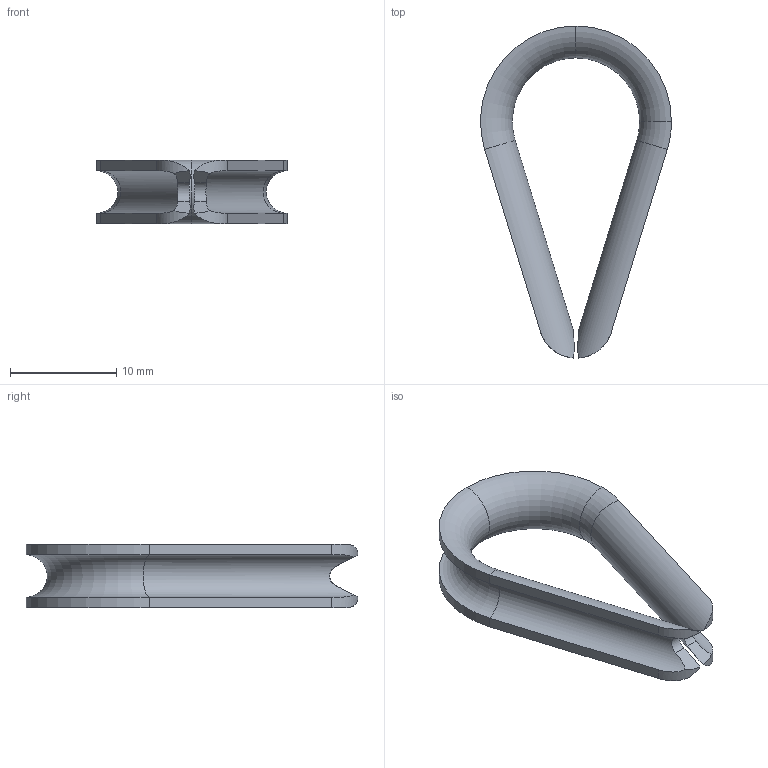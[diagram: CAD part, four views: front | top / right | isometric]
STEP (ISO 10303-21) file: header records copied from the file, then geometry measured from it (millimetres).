
FILE_DESCRIPTION((''),'2;1');
FILE_NAME('2696899014','2023-07-18T11:10:39',('Michaela.Grimm'),(''),'CREO PARAMETRIC BY PTC INC, 2022124','CREO PARAMETRIC BY PTC INC, 2022124','');
FILE_SCHEMA(('AUTOMOTIVE_DESIGN { 1 0 10303 214 1 1 1 1 }'));
Length unit declared in the file: millimetre
Products named in the file (1): 2696899014
Bounding box: 17.99 x 31.28 x 6 mm (x, y, z)
Volume: 527 mm3; surface area: 1222.4 mm2
Topology: 1 solids, 1 shells, 30 faces, 68 edges, 40 vertices
Faces by surface type: cylinder 16, plane 8, torus 6
Entity records: 1783 total; most frequent: CARTESIAN_POINT 325, DIRECTION 150, COLOUR_RGB 144, ORIENTED_EDGE 136, PRESENTATION_STYLE_ASSIGNMENT 73, STYLED_ITEM 73, CURVE_STYLE 72, EDGE_CURVE 68
